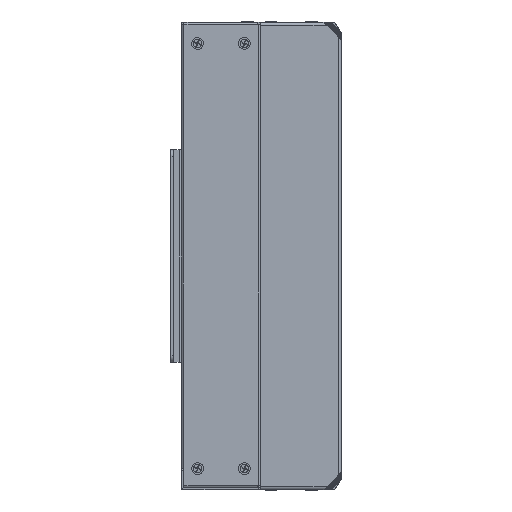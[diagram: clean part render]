
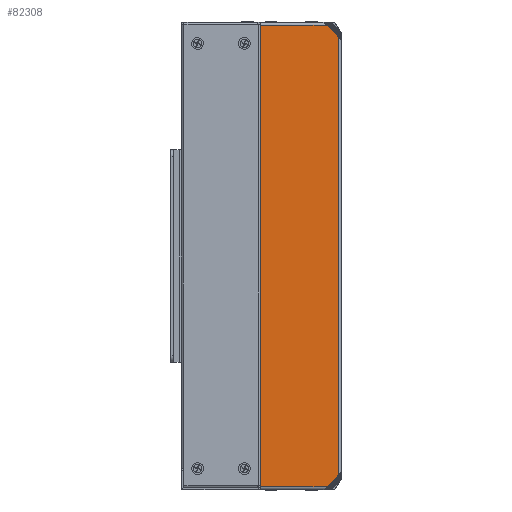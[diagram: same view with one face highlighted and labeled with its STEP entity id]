
A CAD part, left-side view. The second image highlights one B-rep face of the part: STEP entity #82308.
In plain terms, the highlighted planar face has unit normal (-1, 0, 0).
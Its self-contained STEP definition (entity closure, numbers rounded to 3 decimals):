
#2142 = VECTOR ( 'NONE', #25190, 1000. ) ;
#2171 = FACE_OUTER_BOUND ( 'NONE', #68214, .T. ) ;
#2633 = DIRECTION ( 'NONE',  ( 0., 0., 1. ) ) ;
#3019 = VERTEX_POINT ( 'NONE', #25824 ) ;
#4601 = LINE ( 'NONE', #73009, #2142 ) ;
#7459 = CARTESIAN_POINT ( 'NONE',  ( -113., 6.5, -108.5 ) ) ;
#9182 = AXIS2_PLACEMENT_3D ( 'NONE', #99153, #52079, #19808 ) ;
#9731 = CARTESIAN_POINT ( 'NONE',  ( -113., 1., -103. ) ) ;
#10350 = VERTEX_POINT ( 'NONE', #9731 ) ;
#10799 = CARTESIAN_POINT ( 'NONE',  ( -113., 1., -110. ) ) ;
#14863 = ORIENTED_EDGE ( 'NONE', *, *, #60311, .T. ) ;
#15094 = CARTESIAN_POINT ( 'NONE',  ( -113., 38.838, 108.5 ) ) ;
#15840 = EDGE_CURVE ( 'NONE', #50336, #3019, #84321, .T. ) ;
#16201 = ORIENTED_EDGE ( 'NONE', *, *, #76039, .F. ) ;
#16905 = CARTESIAN_POINT ( 'NONE',  ( -113., 38., 0. ) ) ;
#17198 = LINE ( 'NONE', #86892, #80536 ) ;
#18862 = ORIENTED_EDGE ( 'NONE', *, *, #35594, .T. ) ;
#19808 = DIRECTION ( 'NONE',  ( 0., 0., 1. ) ) ;
#24176 = LINE ( 'NONE', #43577, #92710 ) ;
#25190 = DIRECTION ( 'NONE',  ( 0., 0.707, 0.707 ) ) ;
#25824 = CARTESIAN_POINT ( 'NONE',  ( -113., 6.5, 108.5 ) ) ;
#28555 = ORIENTED_EDGE ( 'NONE', *, *, #90433, .F. ) ;
#35594 = EDGE_CURVE ( 'NONE', #10350, #97512, #59002, .T. ) ;
#35966 = EDGE_CURVE ( 'NONE', #68928, #10350, #24176, .T. ) ;
#42140 = VECTOR ( 'NONE', #53965, 1000. ) ;
#43577 = CARTESIAN_POINT ( 'NONE',  ( -113., 6.5, -108.5 ) ) ;
#44265 = VERTEX_POINT ( 'NONE', #65832 ) ;
#50150 = DIRECTION ( 'NONE',  ( 0., -0.707, 0.707 ) ) ;
#50336 = VERTEX_POINT ( 'NONE', #65829 ) ;
#51397 = DIRECTION ( 'NONE',  ( 0., 0., 1. ) ) ;
#52079 = DIRECTION ( 'NONE',  ( -1., 0., 0. ) ) ;
#53965 = DIRECTION ( 'NONE',  ( 0., -1., 0. ) ) ;
#55378 = ORIENTED_EDGE ( 'NONE', *, *, #35966, .T. ) ;
#56152 = DIRECTION ( 'NONE',  ( 0., 1., 0. ) ) ;
#59002 = LINE ( 'NONE', #10799, #72634 ) ;
#60311 = EDGE_CURVE ( 'NONE', #97512, #3019, #4601, .T. ) ;
#60330 = PLANE ( 'NONE',  #9182 ) ;
#65829 = CARTESIAN_POINT ( 'NONE',  ( -113., 38., 108.5 ) ) ;
#65832 = CARTESIAN_POINT ( 'NONE',  ( -113., 38., -108.5 ) ) ;
#68214 = EDGE_LOOP ( 'NONE', ( #16201, #55378, #18862, #14863, #88644, #28555 ) ) ;
#68928 = VERTEX_POINT ( 'NONE', #7459 ) ;
#72634 = VECTOR ( 'NONE', #51397, 1000. ) ;
#73009 = CARTESIAN_POINT ( 'NONE',  ( -113., 1., 103. ) ) ;
#76039 = EDGE_CURVE ( 'NONE', #68928, #44265, #17198, .T. ) ;
#79632 = VECTOR ( 'NONE', #2633, 1000. ) ;
#80536 = VECTOR ( 'NONE', #56152, 1000. ) ;
#82308 = ADVANCED_FACE ( 'NONE', ( #2171 ), #60330, .T. ) ;
#84321 = LINE ( 'NONE', #15094, #42140 ) ;
#86892 = CARTESIAN_POINT ( 'NONE',  ( -113., 38.6, -108.5 ) ) ;
#88644 = ORIENTED_EDGE ( 'NONE', *, *, #15840, .F. ) ;
#90433 = EDGE_CURVE ( 'NONE', #44265, #50336, #99795, .T. ) ;
#92710 = VECTOR ( 'NONE', #50150, 1000. ) ;
#95028 = CARTESIAN_POINT ( 'NONE',  ( -113., 1., 103. ) ) ;
#97512 = VERTEX_POINT ( 'NONE', #95028 ) ;
#99153 = CARTESIAN_POINT ( 'NONE',  ( -113., 0., -110. ) ) ;
#99795 = LINE ( 'NONE', #16905, #79632 ) ;
